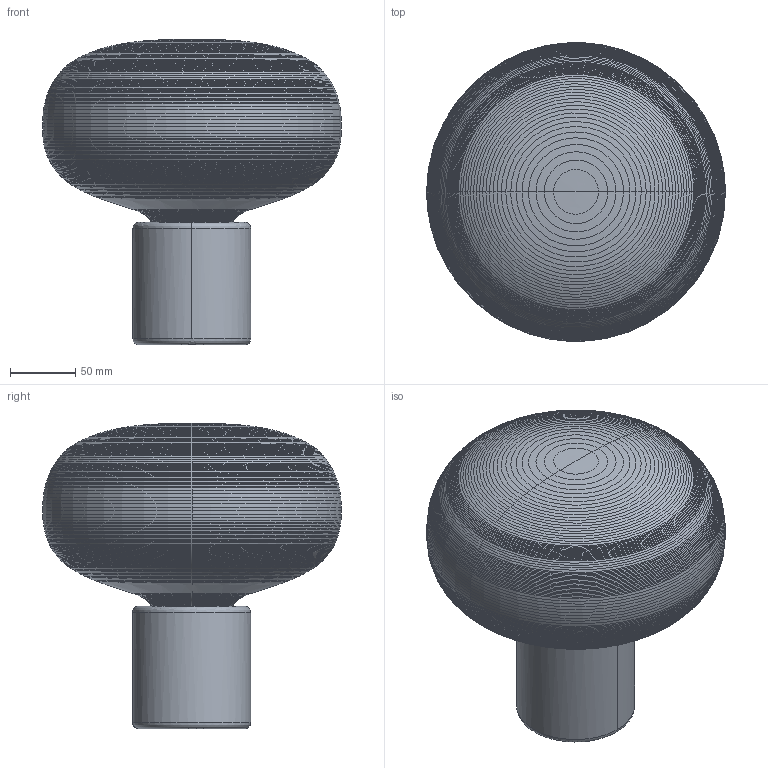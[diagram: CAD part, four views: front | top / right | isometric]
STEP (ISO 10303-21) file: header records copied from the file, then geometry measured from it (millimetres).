
FILE_DESCRIPTION(/* description */ (''),/* implementation_level */ '2;1');
FILE_NAME(/* name */ 'Karl-Johan Table Lamp, New Works',/* time_stamp */ '2015-12-15T00:03:03+01:00',/* author */ (''),/* organization */ (''),/* preprocessor_version */ 'ST-DEVELOPER v15',/* originating_system */ '',/* authorisation */ '');
FILE_SCHEMA (('AUTOMOTIVE_DESIGN'));
Length unit declared in the file: centimetre
Products named in the file (1): Document
Bounding box: 228.44 x 228.25 x 233.42 mm (x, y, z)
Volume: 39895.5 mm3; surface area: 245181.6 mm2
Topology: 3 solids, 6 shells, 375 faces, 762 edges, 387 vertices
Faces by surface type: bspline 371, plane 4
Entity records: 12119 total; most frequent: CARTESIAN_POINT 7864, ORIENTED_EDGE 1507, EDGE_CURVE 757, VERTEX_POINT 384, EDGE_LOOP 377, ADVANCED_FACE 375, FACE_OUTER_BOUND 375, B_SPLINE_CURVE_WITH_KNOTS 351
